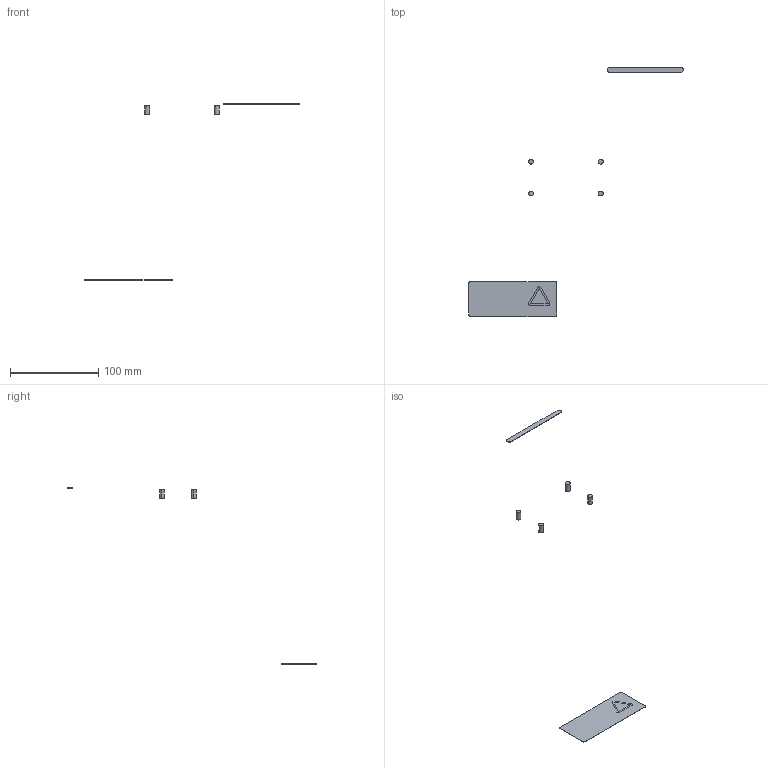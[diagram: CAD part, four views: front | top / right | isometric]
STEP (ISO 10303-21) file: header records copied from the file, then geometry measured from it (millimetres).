
FILE_DESCRIPTION (( 'STEP AP214' ), '1' );
FILE_NAME ('DTS 8041ES.STEP', '2019-11-13T05:55:28', ( '' ), ( '' ), 'SwSTEP 2.0', 'SolidWorks 2018', '' );
FILE_SCHEMA (( 'AUTOMOTIVE_DESIGN' ));
Length unit declared in the file: millimetre
Products named in the file (2): DTS 8041ES
Bounding box: 243.2 x 282.83 x 199.89 mm (x, y, z)
Volume: 1728.3 mm3; surface area: 10368.8 mm2
Topology: 6 solids, 6 shells, 57 faces, 117 edges, 78 vertices
Faces by surface type: plane 30, cylinder 27
Entity records: 97087 total; most frequent: CARTESIAN_POINT 20132, DIRECTION 16011, ORIENTED_EDGE 15886, EDGE_CURVE 7943, AXIS2_PLACEMENT_3D 5506, VERTEX_POINT 5165, LINE 4999, VECTOR 4999
